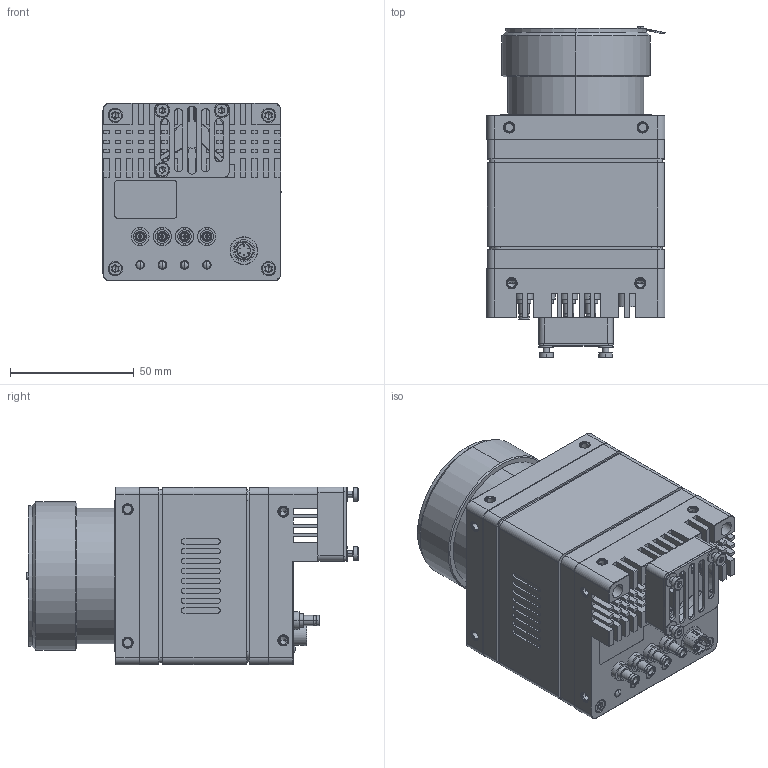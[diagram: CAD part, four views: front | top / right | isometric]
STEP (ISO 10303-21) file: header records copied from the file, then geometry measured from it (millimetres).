
FILE_DESCRIPTION((''),'2;1');
FILE_NAME('0-DH3-2197-0001_ASM_ASM','2024-01-23T14:15:42',('309376'),(''),'CREO PARAMETRIC BY PTC INC, 2020184','CREO PARAMETRIC BY PTC INC, 2020184','');
FILE_SCHEMA(('CONFIG_CONTROL_DESIGN','SHAPE_APPEARANCE_LAYERS_GROUPS'));
Products named in the file (11): 1-2-54-14-10306-000_1_1_2_3_4_8; DH3-1337-6015_1; DH3-1337-6020_ASM_1_ASM; DH3-2197-V001_ASM_1_ASM; DH3-2197-6043_1; DH3-2197-V004_ASM_1_ASM; DH3-2197-V002_ASM_1_ASM; DH3-1337-1000_1_1_2_3_4_5_6_7_8; DH3-1337-V013_ASM_1_ASM; 0-DH3-2197-0001_ASM_1_ASM; 0-DH3-2197-0001_ASM_ASM
Assembly tree (13 placements, depth 5):
  0-DH3-2197-0001_ASM_ASM
    0-DH3-2197-0001_ASM_1_ASM
      DH3-2197-V001_ASM_1_ASM
        1-2-54-14-10306-000_1_1_2_3_4_8  x4
        DH3-1337-6020_ASM_1_ASM
          DH3-1337-6015_1
      DH3-2197-V002_ASM_1_ASM
        DH3-2197-V004_ASM_1_ASM
          DH3-2197-6043_1
      DH3-1337-V013_ASM_1_ASM
        DH3-1337-1000_1_1_2_3_4_5_6_7_8
Bounding box: 72.03 x 134.3 x 72 mm (x, y, z)
Volume: 375305.5 mm3; surface area: 96244.3 mm2
Topology: 10 solids, 103 shells, 2646 faces, 7011 edges, 4532 vertices
Faces by surface type: plane 1097, cylinder 1022, cone 299, bspline 132, torus 88, sphere 8
Entity records: 115075 total; most frequent: CARTESIAN_POINT 25920, DIRECTION 13718, ORIENTED_EDGE 12824, PRESENTATION_STYLE_ASSIGNMENT 7284, STYLED_ITEM 6609, CURVE_STYLE 6542, EDGE_CURVE 6542, AXIS2_PLACEMENT_3D 5238
